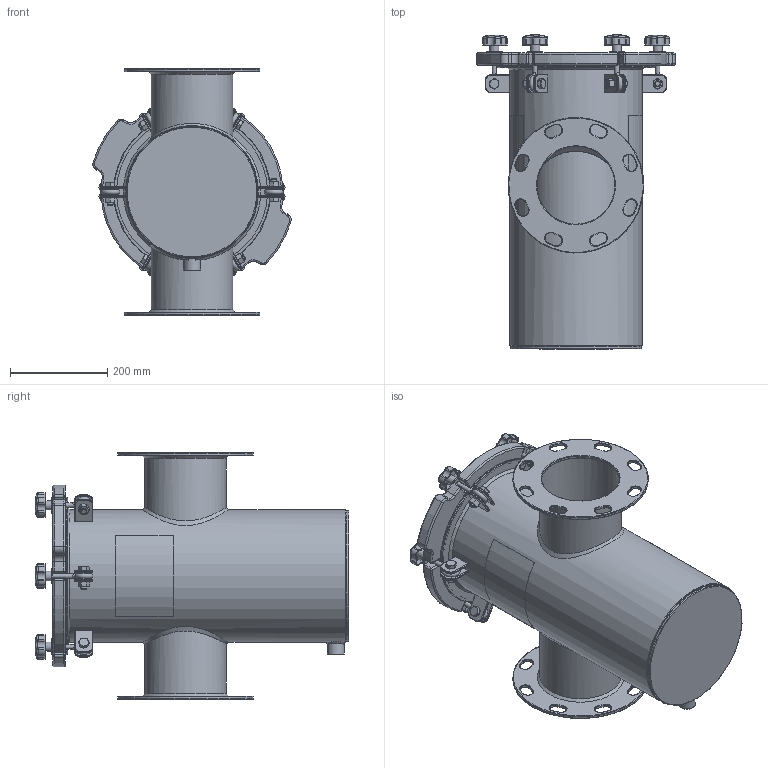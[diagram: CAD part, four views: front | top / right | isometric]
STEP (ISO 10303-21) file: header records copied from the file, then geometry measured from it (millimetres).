
FILE_DESCRIPTION(/* description */ ('10 3/4" STRAINER BODY'),/* implementation_level */ '2;1');
FILE_NAME(/* name */ 'X:\WIP\Ready for delivery - Do not Disturb -Updated with metric Flange\Workspace\SS Straight\150NBSTL06.stp',/* time_stamp */ '2016-09-29T19:55:00+05:00',/* author */ ('20093558'),/* organization */ (''),/* preprocessor_version */ 'ST-DEVELOPER v16.1',/* originating_system */ 'Autodesk Inventor 2016',/* authorisation */ '');
FILE_SCHEMA (('AUTOMOTIVE_DESIGN { 1 0 10303 214 3 1 1 }'));
Length unit declared in the file: inch
Products named in the file (28): NBSSBODY06_Welds; FOR NBSSBODY06; FOR 10 3(_FS)4 DIA STRAINER BODY; FOR 10 3(_FS)4 DIA STRAINER BODY_1; 10 3(_FS)4 Body; ConcentricPipe-6(_DQ); 6(_DQ); For 10 3(_FS)4 Body; ASME B16.11 Half Coupling Threaded - Class 3000 3_4 x 3_4; 10 3(_FS)4 Body_1; NBSSBODY06; 150NBCVR48R1; 150NBGSK48R1; Perforated Basket 10in; Bride (Ring) 10in; Baffle 10in; Handle 10in; Bottom Strainer 10in; NBBSK08T316; Nut- 1_2  UNC; Bolt-1_2 x 1 1_2  UNC; EyeBolt; Washer; Knob M10; Securing Assembly without Brace; Label for 10.75 inch (Right); Label for 10.75 inch (Left); Guardian SS H&L Strainer (Inch)
Assembly tree (48 placements, depth 3):
  Guardian SS H&L Strainer (Inch)
    NBSSBODY06
      NBSSBODY06_Welds
      FOR NBSSBODY06
      FOR 10 3(_FS)4 DIA STRAINER BODY
      FOR 10 3(_FS)4 DIA STRAINER BODY_1
      10 3(_FS)4 Body  x4
      ConcentricPipe-6(_DQ)  x2
      6(_DQ)  x2
      For 10 3(_FS)4 Body
      ASME B16.11 Half Coupling Threaded - Class 3000 3_4 x 3_4
      10 3(_FS)4 Body_1  x12
    150NBCVR48R1
    150NBGSK48R1
    NBBSK08T316
      Perforated Basket 10in
      Bride (Ring) 10in
      Baffle 10in
      Handle 10in
      Bottom Strainer 10in
    Securing Assembly without Brace  x6
      Nut- 1_2  UNC
      Bolt-1_2 x 1 1_2  UNC
      EyeBolt
      Washer
      Knob M10
    Label for 10.75 inch (Right)
    Label for 10.75 inch (Left)
Bounding box: 408.57 x 646.2 x 508 mm (x, y, z)
Volume: 7077925.3 mm3; surface area: 2796309.7 mm2
Topology: 79 solids, 79 shells, 1686 faces, 3742 edges, 2202 vertices
Faces by surface type: cylinder 600, plane 458, torus 302, cone 143, bspline 93, sphere 90
Full cylindrical faces by diameter (mm): 3.175 x10, 6.35 x1, 8.382 x6, 9.525 x12, 10.592 x6, 12.7 x6, 15.875 x12, 19 x12, 19.05 x6, 22.8 x1, 22.809 x1, 31.75 x6, 35.052 x1, 160.337 x2, 162.717 x4, 168.275 x6, 187.325 x2, 190.5 x1, 193.04 x1, 264.716 x3, 266.7 x1, 269.875 x2, 273.05 x2, 276.225 x1, 279.4 x2, 311.15 x1, 317.5 x1, 323.85 x1
Entity records: 26780 total; most frequent: CARTESIAN_POINT 9909, DIRECTION 3649, ORIENTED_EDGE 3000, AXIS2_PLACEMENT_3D 1542, EDGE_CURVE 1500, VERTEX_POINT 948, EDGE_LOOP 868, CIRCLE 743
